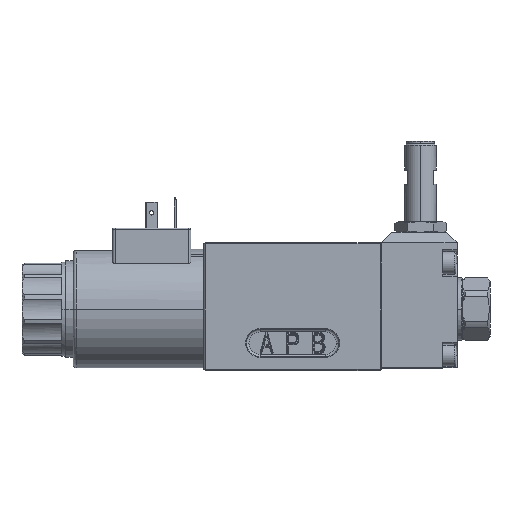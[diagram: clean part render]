
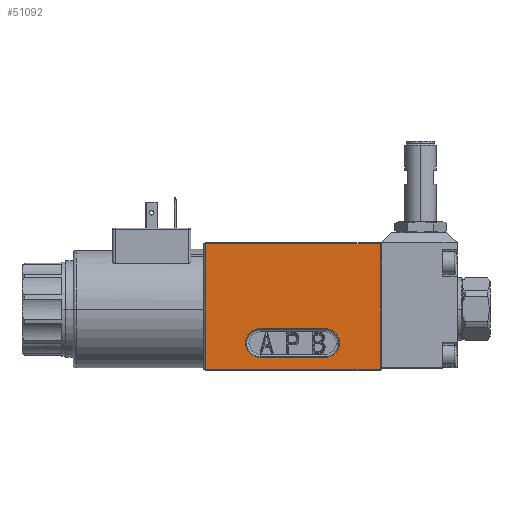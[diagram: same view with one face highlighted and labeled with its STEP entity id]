
A CAD part, top view. The second image highlights one B-rep face of the part: STEP entity #51092.
In plain terms, the highlighted planar face has unit normal (0, 0, 1).
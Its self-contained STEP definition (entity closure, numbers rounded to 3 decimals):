
#286 = VERTEX_POINT ( 'NONE', #26247 ) ;
#527 = DIRECTION ( 'NONE',  ( 0., 0., -1. ) ) ;
#1686 = LINE ( 'NONE', #39543, #5708 ) ;
#2634 = CARTESIAN_POINT ( 'NONE',  ( -33.5, -23.5, 23. ) ) ;
#4967 = EDGE_CURVE ( 'NONE', #75224, #14872, #43157, .T. ) ;
#5053 = CARTESIAN_POINT ( 'NONE',  ( -35., 24.5, 23. ) ) ;
#5406 = VERTEX_POINT ( 'NONE', #56189 ) ;
#5708 = VECTOR ( 'NONE', #32227, 1000. ) ;
#6442 = AXIS2_PLACEMENT_3D ( 'NONE', #47301, #72450, #21738 ) ;
#7516 = DIRECTION ( 'NONE',  ( 1., 0., 0. ) ) ;
#7974 = VECTOR ( 'NONE', #75225, 1000. ) ;
#8253 = EDGE_CURVE ( 'NONE', #286, #60588, #60042, .T. ) ;
#10502 = CARTESIAN_POINT ( 'NONE',  ( -33.5, 24.5, 23. ) ) ;
#12852 = ORIENTED_EDGE ( 'NONE', *, *, #42165, .T. ) ;
#13303 = DIRECTION ( 'NONE',  ( 1., 0., 0. ) ) ;
#14872 = VERTEX_POINT ( 'NONE', #46852 ) ;
#15089 = EDGE_CURVE ( 'NONE', #5406, #60348, #47257, .T. ) ;
#17588 = DIRECTION ( 'NONE',  ( -1., 0., 0. ) ) ;
#17605 = ORIENTED_EDGE ( 'NONE', *, *, #69636, .T. ) ;
#18389 = AXIS2_PLACEMENT_3D ( 'NONE', #38767, #19396, #13303 ) ;
#18516 = CARTESIAN_POINT ( 'NONE',  ( 17.971, -13.5, 23. ) ) ;
#19396 = DIRECTION ( 'NONE',  ( 0., 0., -1. ) ) ;
#20644 = FACE_OUTER_BOUND ( 'NONE', #60738, .T. ) ;
#20949 = LINE ( 'NONE', #43250, #7974 ) ;
#21053 = ORIENTED_EDGE ( 'NONE', *, *, #4967, .T. ) ;
#21055 = VECTOR ( 'NONE', #17588, 1000. ) ;
#21261 = CARTESIAN_POINT ( 'NONE',  ( 33.5, -23.5, 23. ) ) ;
#21738 = DIRECTION ( 'NONE',  ( 1., 0., 0. ) ) ;
#22590 = ORIENTED_EDGE ( 'NONE', *, *, #58952, .T. ) ;
#22608 = DIRECTION ( 'NONE',  ( 0., 1., 0. ) ) ;
#26247 = CARTESIAN_POINT ( 'NONE',  ( 12.5, -8.029, 23. ) ) ;
#27988 = ORIENTED_EDGE ( 'NONE', *, *, #15089, .T. ) ;
#30654 = FACE_BOUND ( 'NONE', #36455, .T. ) ;
#31767 = EDGE_CURVE ( 'NONE', #60588, #75224, #50603, .T. ) ;
#32227 = DIRECTION ( 'NONE',  ( 1., 0., 0. ) ) ;
#33160 = CARTESIAN_POINT ( 'NONE',  ( 12.5, -13.5, 23. ) ) ;
#36455 = EDGE_LOOP ( 'NONE', ( #69082, #59807, #21053, #50175, #22590 ) ) ;
#38767 = CARTESIAN_POINT ( 'NONE',  ( 12.5, -13.5, 23. ) ) ;
#39543 = CARTESIAN_POINT ( 'NONE',  ( 12.5, -8.029, 23. ) ) ;
#41713 = EDGE_CURVE ( 'NONE', #82434, #56330, #20949, .T. ) ;
#42165 = EDGE_CURVE ( 'NONE', #60348, #82434, #72953, .T. ) ;
#43157 = LINE ( 'NONE', #61665, #80038 ) ;
#43250 = CARTESIAN_POINT ( 'NONE',  ( -35., -23.5, 23. ) ) ;
#46852 = CARTESIAN_POINT ( 'NONE',  ( -12.5, -18.971, 23. ) ) ;
#47118 = VECTOR ( 'NONE', #22608, 1000. ) ;
#47257 = LINE ( 'NONE', #5053, #21055 ) ;
#47301 = CARTESIAN_POINT ( 'NONE',  ( -35., -24., 23. ) ) ;
#50175 = ORIENTED_EDGE ( 'NONE', *, *, #56508, .T. ) ;
#50545 = DIRECTION ( 'NONE',  ( 0., -1., 0. ) ) ;
#50603 = CIRCLE ( 'NONE', #64550, 5.471 ) ;
#51092 = ADVANCED_FACE ( 'NONE', ( #30654, #20644 ), #52090, .T. ) ;
#52090 = PLANE ( 'NONE',  #6442 ) ;
#54142 = LINE ( 'NONE', #55199, #47118 ) ;
#54742 = VERTEX_POINT ( 'NONE', #64721 ) ;
#55199 = CARTESIAN_POINT ( 'NONE',  ( 33.5, -24., 23. ) ) ;
#55774 = CARTESIAN_POINT ( 'NONE',  ( 12.5, -18.971, 23. ) ) ;
#56189 = CARTESIAN_POINT ( 'NONE',  ( 33.5, 24.5, 23. ) ) ;
#56330 = VERTEX_POINT ( 'NONE', #21261 ) ;
#56508 = EDGE_CURVE ( 'NONE', #14872, #54742, #67565, .T. ) ;
#58952 = EDGE_CURVE ( 'NONE', #54742, #286, #1686, .T. ) ;
#59679 = CARTESIAN_POINT ( 'NONE',  ( -12.5, -13.5, 23. ) ) ;
#59807 = ORIENTED_EDGE ( 'NONE', *, *, #31767, .T. ) ;
#60042 = CIRCLE ( 'NONE', #18389, 5.471 ) ;
#60348 = VERTEX_POINT ( 'NONE', #10502 ) ;
#60588 = VERTEX_POINT ( 'NONE', #18516 ) ;
#60738 = EDGE_LOOP ( 'NONE', ( #27988, #12852, #76804, #17605 ) ) ;
#61665 = CARTESIAN_POINT ( 'NONE',  ( 12.5, -18.971, 23. ) ) ;
#63099 = CARTESIAN_POINT ( 'NONE',  ( -33.5, -24., 23. ) ) ;
#64550 = AXIS2_PLACEMENT_3D ( 'NONE', #33160, #527, #7516 ) ;
#64721 = CARTESIAN_POINT ( 'NONE',  ( -12.5, -8.029, 23. ) ) ;
#66087 = DIRECTION ( 'NONE',  ( 1., 0., 0. ) ) ;
#67565 = CIRCLE ( 'NONE', #70076, 5.471 ) ;
#68077 = DIRECTION ( 'NONE',  ( -1., 0., 0. ) ) ;
#69082 = ORIENTED_EDGE ( 'NONE', *, *, #8253, .T. ) ;
#69636 = EDGE_CURVE ( 'NONE', #56330, #5406, #54142, .T. ) ;
#70076 = AXIS2_PLACEMENT_3D ( 'NONE', #59679, #78134, #66087 ) ;
#72450 = DIRECTION ( 'NONE',  ( 0., 0., 1. ) ) ;
#72953 = LINE ( 'NONE', #63099, #73945 ) ;
#73945 = VECTOR ( 'NONE', #50545, 1000. ) ;
#75224 = VERTEX_POINT ( 'NONE', #55774 ) ;
#75225 = DIRECTION ( 'NONE',  ( 1., 0., 0. ) ) ;
#76804 = ORIENTED_EDGE ( 'NONE', *, *, #41713, .T. ) ;
#78134 = DIRECTION ( 'NONE',  ( 0., 0., -1. ) ) ;
#80038 = VECTOR ( 'NONE', #68077, 1000. ) ;
#82434 = VERTEX_POINT ( 'NONE', #2634 ) ;
